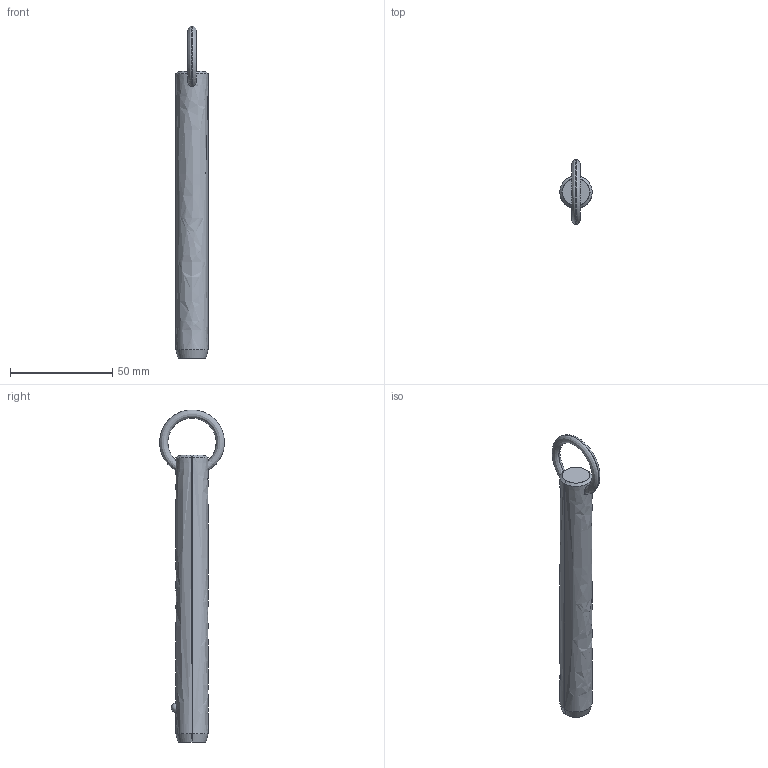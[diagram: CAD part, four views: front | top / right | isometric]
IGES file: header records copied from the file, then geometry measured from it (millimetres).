
Start section: SolidWorks IGES file using analytic representation for surfaces
Global section: file name: C:\Users\liam_\OneDrive\Documents\WORK\Work for WixRoyd\Job Files\J-00019 - Matt Davis CAD Checking\04. CAD Drawings\automotion20190605\P1250.2_v2\P1250.2_v2_20190729_IGES\P1250.062-440.igs; native system: SolidWorks 2017; preprocessor: SolidWorks 2017; author: liam_; date: 190729.233747; units: millimetre
Bounding box: 15.8 x 31.68 x 162.5 mm (x, y, z)
Surface area: 8137.9 mm2 (no closed solid volume)
Topology: 0 solids, 0 shells, 12 faces, 292 edges, 290 vertices
Faces by surface type: revolution 8, bspline 4
